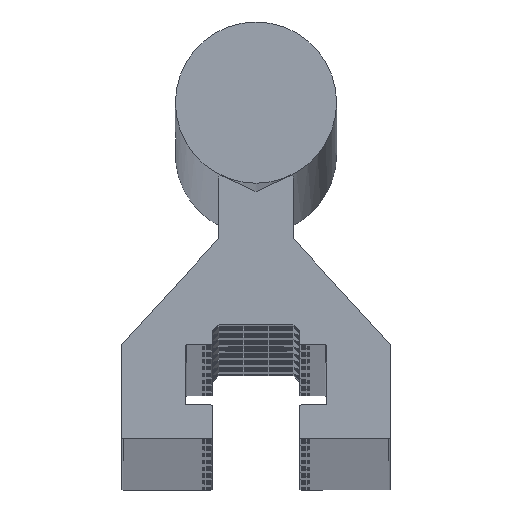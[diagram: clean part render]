
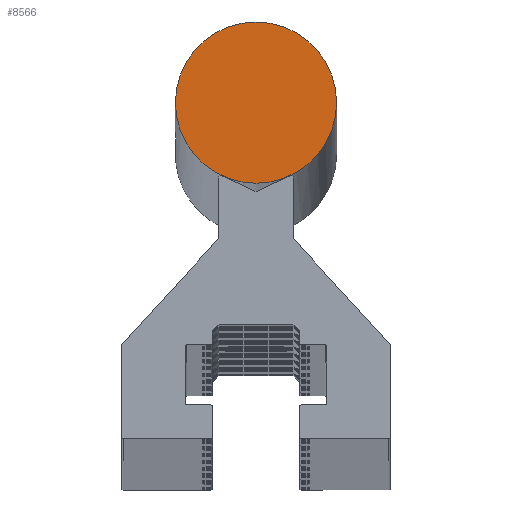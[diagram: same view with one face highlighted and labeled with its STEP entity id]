
A CAD part, top view. The second image highlights one B-rep face of the part: STEP entity #8566.
In plain terms, the highlighted planar face has unit normal (0, 0, 1).
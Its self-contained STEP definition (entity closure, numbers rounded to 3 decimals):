
#1309 = FACE_OUTER_BOUND ( 'NONE', #29585, .T. ) ;
#4825 = DIRECTION ( 'NONE',  ( 0., 0., 1. ) ) ;
#8566 = ADVANCED_FACE ( 'NONE', ( #1309 ), #18355, .T. ) ;
#8660 = CIRCLE ( 'NONE', #17288, 6. ) ;
#15962 = DIRECTION ( 'NONE',  ( 1., 0., 0. ) ) ;
#17018 = CARTESIAN_POINT ( 'NONE',  ( 0., 25., 1. ) ) ;
#17230 = DIRECTION ( 'NONE',  ( 0., 0., 1. ) ) ;
#17288 = AXIS2_PLACEMENT_3D ( 'NONE', #27761, #4825, #31720 ) ;
#17965 = CARTESIAN_POINT ( 'NONE',  ( 6., 25., 1. ) ) ;
#18355 = PLANE ( 'NONE',  #22526 ) ;
#22526 = AXIS2_PLACEMENT_3D ( 'NONE', #17018, #17230, #15962 ) ;
#27761 = CARTESIAN_POINT ( 'NONE',  ( 0., 25., 1. ) ) ;
#28483 = VERTEX_POINT ( 'NONE', #17965 ) ;
#29585 = EDGE_LOOP ( 'NONE', ( #34652 ) ) ;
#31720 = DIRECTION ( 'NONE',  ( 1., 0., 0. ) ) ;
#34652 = ORIENTED_EDGE ( 'NONE', *, *, #41825, .T. ) ;
#41825 = EDGE_CURVE ( 'NONE', #28483, #28483, #8660, .T. ) ;
